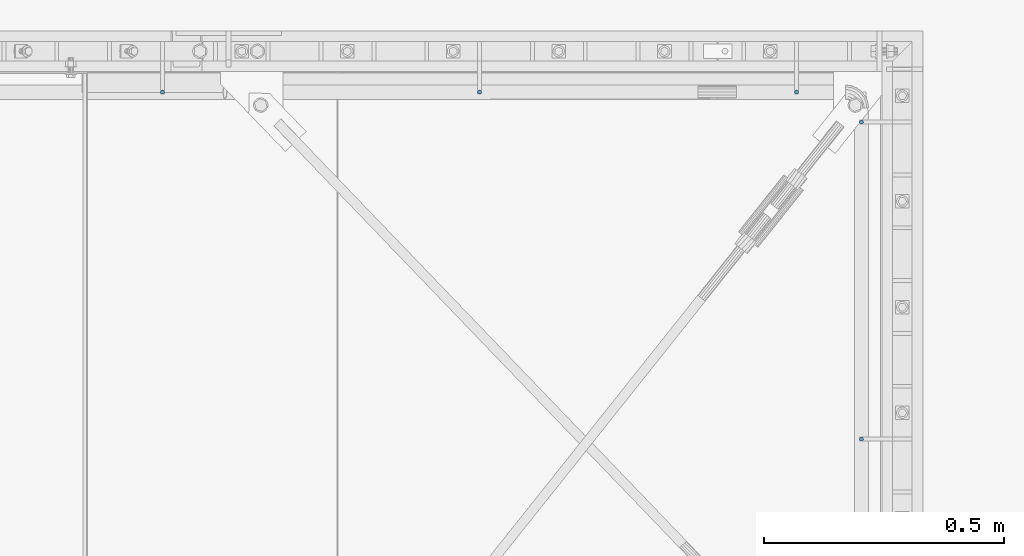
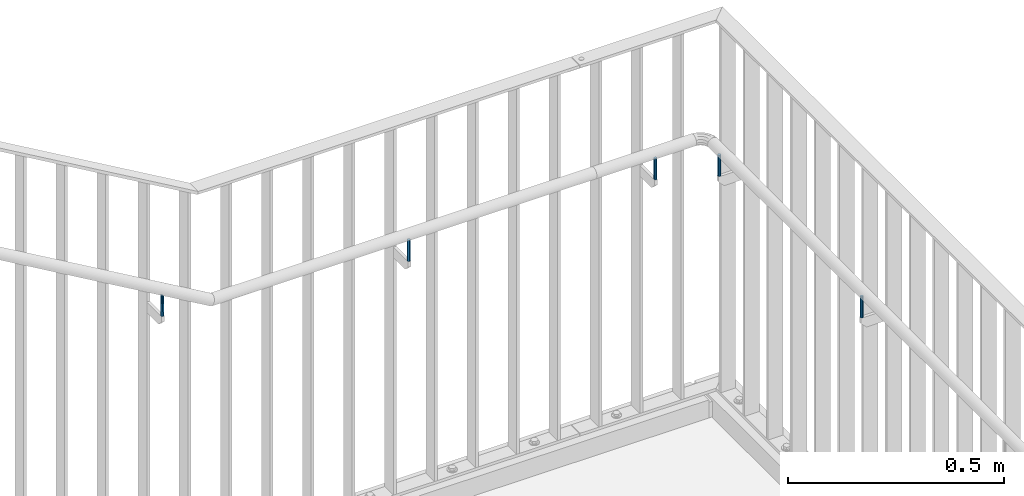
# One storey, part 11 of 145: 5 columns, 1 opening.
"""IFC2X3 building model written with IfcOpenShell, lengths in millimetres."""

from ifc_helpers import new_model, entity, si_unit, converted_unit, frame, origin, origin_with_axes, origin_2d, place, context, project, spatial, polyline, circle, outline, extrude, material, element, save


model = new_model("IFC2X3")

# Units and contexts
model_context = context("Model", 3, precision=1e-09, world=origin_with_axes())
ifc_project = project(units=[si_unit("LENGTHUNIT", "METRE", prefix="MILLI"), si_unit("AREAUNIT", "SQUARE_METRE"), si_unit("VOLUMEUNIT", "CUBIC_METRE"), converted_unit("PLANEANGLEUNIT", "DEGREE", entity("IfcPlaneAngleMeasure", 0.01745329), si_unit("PLANEANGLEUNIT", "RADIAN"), dimensions=[0, 0, 0, 0, 0, 0, 0])], contexts=[model_context])

# Site, building, storey
site_placement = place(None, origin_with_axes())
site = spatial("IfcSite", under=ifc_project, at=site_placement, Name="BZ1 Grund- und Mittelschule 85716 Unterschlei?heim", CompositionType="ELEMENT")
building_placement = place(site_placement, origin_with_axes())
building = spatial("IfcBuilding", under=site, at=building_placement, Name="Struktur 1", CompositionType="ELEMENT")
storey_placement = place(building_placement, origin_with_axes())
storey = spatial("IfcBuildingStorey", under=building, at=storey_placement, Name="Default Storey", CompositionType="ELEMENT", Elevation=0.0)

# Column
ifc_material = material(Name="1.4301")
column_1_placement = place(None, frame((20733.141490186, -312.502, 2323.636364), z_axis=(0.0, 0.0, 1.0), x_axis=(0.0, 1.0, 0.0)))
element("IfcColumn", 1, at=column_1_placement, inside=storey, material=ifc_material, Name="-", ObjectType="-", context=model_context, shape_type="SweptSolid", body=[
    extrude(circle(Radius=4.0, at=origin_2d()), origin(), (0.0, 0.0, 1.0), 60.0),
])

# Column, opening
column_2_placement = place(None, frame((20073.141490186, -312.506106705, 2399.180800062), z_axis=(0.0, 0.0, -1.0), x_axis=(0.0, 1.0, 0.0)))
column_2 = element("IfcColumn", 2, at=column_2_placement, inside=storey, material=ifc_material, Name="-", ObjectType="-", context=model_context, shape_type="SweptSolid", body=[
    extrude(circle(Radius=4.0, at=origin_2d()), origin(), (0.0, 0.0, -1.0), 60.0),
])
opening_placement = place(column_2_placement, frame((-104.1, 0.0, -60.0), z_axis=(1.0, 0.0, 0.0), x_axis=(0.0, -1.0, 0.0)))
element("IfcOpeningElement", 3, at=opening_placement, cuts=column_2, ObjectType="Opening", context=model_context, shape_type="SweptSolid", body=[
    extrude(outline(polyline([(-13.305390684, -10.064322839), (15.967881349, 6.958222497), (-18.138790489, 6.958222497), (-13.305390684, -10.064322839)])), origin(), (0.0, 0.0, 1.0), 208.2),
])

# Columns
for number, where, z_axis, x_axis in (
    (4, (21528.34472732, -1035.002, 2323.636364), (0.0, 0.0, -1.0), (1.0, 0.0, 0.0)),
    (5, (21528.34472732, -375.002, 2323.636364), (0.0, 0.0, -1.0), (1.0, 0.0, 0.0)),
):
    element("IfcColumn", number, at=place(None, frame(where, z_axis=z_axis, x_axis=x_axis)), inside=storey, material=ifc_material, Name="-", ObjectType="-", context=model_context, shape_type="SweptSolid", body=[
        extrude(circle(Radius=4.0, at=origin_2d()), origin(), (0.0, 0.0, -1.0), 60.0),
    ])
column_3_placement = place(None, frame((21393.141490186, -312.502, 2323.636364), z_axis=(0.0, 0.0, 1.0), x_axis=(0.0, 1.0, 0.0)))
element("IfcColumn", 6, at=column_3_placement, inside=storey, material=ifc_material, Name="-", ObjectType="-", context=model_context, shape_type="SweptSolid", body=[
    extrude(circle(Radius=4.0, at=origin_2d()), origin(), (0.0, 0.0, 1.0), 60.0),
])

save(model, "model.ifc")
